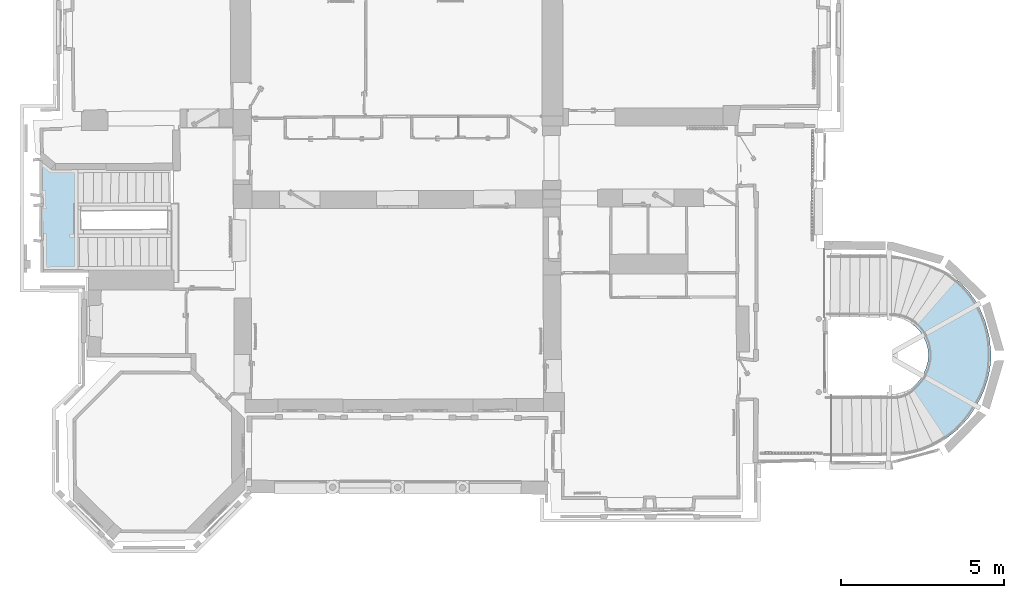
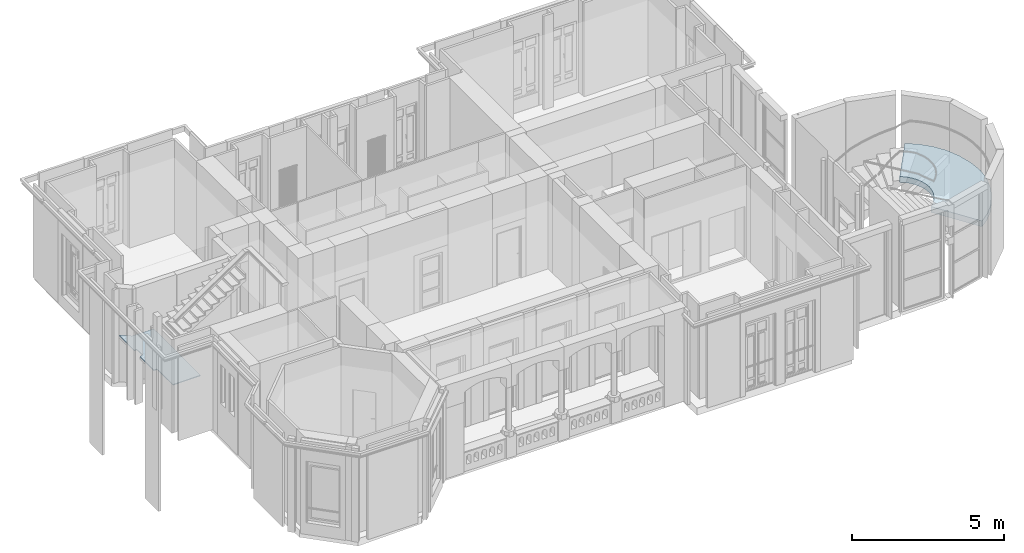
# One storey, part 32 of 66: 2 slabs, 2 elements without a shape of their own.
"""IFC2X3 building model written with IfcOpenShell, lengths in centimetres."""

from ifc_helpers import new_model, entity, si_unit, converted_unit, direction, frame, origin, origin_with_axes, place, context, subcontext, project, spatial, faceted_brep, material, material_list, element, aggregate, save


model = new_model("IFC2X3")

# Units and contexts
model_context = context("Model", 3, precision=0.0001, world=origin(), true_north=direction((0.225632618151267, 0.974212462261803, 0.0)))
body_context = subcontext(model_context, "Body", "Model", "MODEL_VIEW")
ifc_project = project(units=[si_unit("LENGTHUNIT", "METRE", prefix="CENTI"), si_unit("AREAUNIT", "SQUARE_METRE", prefix="CENTI"), si_unit("VOLUMEUNIT", "CUBIC_METRE", prefix="CENTI"), converted_unit("PLANEANGLEUNIT", "DEGREE", entity("IfcRatioMeasure", 0.0174532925), si_unit("PLANEANGLEUNIT", "RADIAN"), dimensions=[0, 0, 0, 0, 0, 0, 0])], contexts=[model_context])

# Site, building, storey
site_placement = place(None, origin_with_axes())
site = spatial("IfcSite", under=ifc_project, at=site_placement, Name="Default Site", CompositionType="ELEMENT")
building_placement = place(site_placement, origin_with_axes())
building = spatial("IfcBuilding", under=site, at=building_placement, Name="Default Building", CompositionType="ELEMENT")
storey_placement = place(building_placement, frame((0.0, 0.0, 477.795358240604), z_axis=(0.0, 0.0, 1.0), x_axis=(1.0, 0.0, 0.0)))
storey = spatial("IfcBuildingStorey", under=building, at=storey_placement, Name="Niveau 1", CompositionType="ELEMENT", Elevation=477.795358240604)

# Stair, slab
stair_1_placement = place(storey_placement, frame((1122.50922468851, -332.022076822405, 0.0), z_axis=(0.0, 0.0, 1.0), x_axis=(1.0, 0.0, 0.0)))
stair_1 = element("IfcStair", 1, at=stair_1_placement, inside=storey, Name="Escalier 724676", ShapeType="NOTDEFINED")
ifc_material_1 = material(Name="Blanc")
ifc_material_2 = material(Name="Carreau décoré (85)")
ifc_material_list = material_list([ifc_material_1, ifc_material_2])
slab_1_placement = place(stair_1_placement, frame((391.848437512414, 12.8588735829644, 186.307529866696), z_axis=(0.0, 0.0, 1.0), x_axis=(0.801648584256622, -0.597795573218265, 0.0)))
slab_1 = element("IfcSlab", 2, at=slab_1_placement, material=ifc_material_list, Name="4294967280", PredefinedType="LANDING", context=body_context, shape_type="Brep", body=[
    faceted_brep([(-42.394244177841, -191.249401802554, -20.0000286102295), (-42.394244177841, -191.249401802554, 0.0), (-47.7133013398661, 4.99968131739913e-08, 0.0), (-47.7133031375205, 1.77635683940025e-13, 0.0), (-47.7133031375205, 1.77635683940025e-13, -20.0000286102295), (-42.3942459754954, -191.249401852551, -20.0000286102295), (257.00890930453, -413.539061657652, -20.0000286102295), (257.00890930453, -413.539061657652, 0.0), (80.6413384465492, -350.768835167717, 0.0), (80.6413401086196, -350.768830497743, 0.0), (80.6413401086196, -350.768830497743, -20.0000286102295), (257.0089109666, -413.539056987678, -20.0000286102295), (15.3910823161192, -201.883055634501, -20.0000286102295), (138.966497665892, -50.437387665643, -20.0000286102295), (32.6621853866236, -211.481300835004, -20.0000286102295), (-3.20626929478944, -195.207863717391, -20.0000286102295), (47.0694433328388, -7.81192073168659, -20.0000286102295), (92.2246502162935, -23.224916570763, -20.0000286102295), (0.0, 0.0, -20.0000286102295), (-22.638981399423, -191.631904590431, -20.0000286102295), (84.3861218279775, -331.532678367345, -20.0000286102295), (274.406233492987, -322.894354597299, -20.0000286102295), (269.310994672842, -368.908278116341, -20.0000286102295), (85.3209944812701, -311.957712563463, -20.0000286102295), (272.166492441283, -276.653406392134, -20.0000286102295), (83.4263804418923, -292.45224408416, -20.0000286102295), (268.457184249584, -249.694908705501, -20.0000286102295), (78.741796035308, -273.423106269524, -20.0000286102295), (254.314676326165, -197.189558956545, -20.0000286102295), (262.492449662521, -223.144194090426, -20.0000286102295), (71.364959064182, -255.267279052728, -20.0000286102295), (231.567139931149, -147.799553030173, -20.0000286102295), (243.981741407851, -172.015184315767, -20.0000286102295), (61.4498001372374, -238.363319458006, -20.0000286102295), (180.946757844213, -84.5398157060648, -20.0000286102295), (217.158795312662, -124.714492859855, -20.0000286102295), (48.1513354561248, -223.749325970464, -20.0000286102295), (-22.638981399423, -191.631904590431, 0.0), (-42.3942441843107, -191.249402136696, -20.0000286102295), (-42.3942441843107, -191.249402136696, 0.0), (-3.20626929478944, -195.207863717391, 0.0), (-22.6389814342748, -191.631904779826, -20.0000286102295), (-22.6389814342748, -191.631904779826, 0.0), (15.3910823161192, -201.883055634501, 0.0), (-3.20626932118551, -195.207863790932, -20.0000286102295), (-3.20626932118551, -195.207863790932, 0.0), (32.6621853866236, -211.481300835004, 0.0), (15.3910823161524, -201.883055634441, -20.0000286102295), (15.3910823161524, -201.883055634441, 0.0), (48.1513354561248, -223.749325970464, 0.0), (32.6621855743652, -211.481300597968, -20.0000286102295), (32.6621855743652, -211.481300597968, 1.17977529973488e-23), (61.4498001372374, -238.363319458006, 0.0), (48.151335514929, -223.749325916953, -20.0000286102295), (48.151335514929, -223.749325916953, 0.0), (0.0, 0.0, 0.0), (269.310994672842, -368.908278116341, 0.0), (84.3861218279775, -331.532678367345, 0.0), (274.406233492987, -322.894354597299, 0.0), (85.3209944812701, -311.957712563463, 0.0), (272.166492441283, -276.653406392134, 0.0), (83.4263804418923, -292.45224408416, 0.0), (268.457184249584, -249.694908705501, 0.0), (78.741796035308, -273.423106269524, 0.0), (262.492449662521, -223.144194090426, 0.0), (254.314676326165, -197.189558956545, 0.0), (71.364959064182, -255.267279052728, 0.0), (243.981741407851, -172.015184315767, 0.0), (231.567139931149, -147.799553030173, 0.0), (217.158795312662, -124.714492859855, 0.0), (180.946757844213, -84.5398157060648, 0.0), (138.966497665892, -50.437387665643, 0.0), (92.2246502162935, -23.224916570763, 0.0), (47.0694433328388, -7.81192073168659, 0.0), (61.4498001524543, -238.36331944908, -20.0000286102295), (61.4498001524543, -238.36331944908, 3.42765946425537e-25), (71.3649591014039, -255.267279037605, -20.0000286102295), (71.3649591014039, -255.267279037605, 0.0), (78.7417959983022, -273.423106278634, -20.0000286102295), (78.7417959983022, -273.423106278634, 0.0), (83.4263806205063, -292.452244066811, -20.0000286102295), (83.4263806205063, -292.452244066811, 0.0), (85.3209950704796, -311.957712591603, -20.0000286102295), (85.3209950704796, -311.957712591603, 4.58444995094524e-23), (84.3861212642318, -331.532678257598, -20.0000286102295), (84.3861212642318, -331.532678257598, -4.46357884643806e-23), (257.008910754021, -413.539062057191, -20.0000286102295), (257.008910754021, -413.539062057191, 0.0), (269.310995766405, -368.908278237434, -20.0000286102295), (269.310995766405, -368.908278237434, 0.0), (274.406233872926, -322.894354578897, -20.0000286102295), (274.406233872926, -322.894354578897, 5.32434987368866e-23), (272.166492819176, -276.653406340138, -20.0000286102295), (272.166492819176, -276.653406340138, -3.57554871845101e-23), (268.457184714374, -249.694908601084, -20.0000286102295), (268.457184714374, -249.694908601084, 4.46528981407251e-23), (262.49244976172, -223.14419405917, -20.0000286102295), (262.49244976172, -223.14419405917, 0.0), (254.314676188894, -197.189559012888, -20.0000286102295), (254.314676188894, -197.189559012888, -6.95441324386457e-24), (243.981741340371, -172.015184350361, -20.0000286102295), (243.981741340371, -172.015184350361, 0.0), (231.567139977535, -147.799553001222, -20.0000286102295), (231.567139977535, -147.799553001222, 1.28135191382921e-24), (217.158795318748, -124.714492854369, -20.0000286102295), (217.158795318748, -124.714492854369, -3.27857943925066e-25), (180.946757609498, -84.539815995, -20.0000286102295), (180.946757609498, -84.539815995, -2.97905215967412e-23), (138.966497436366, -50.4373880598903, -20.0000286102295), (138.966497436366, -50.4373880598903, 0.0), (92.2246500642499, -23.2249170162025, -20.0000286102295), (92.2246500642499, -23.2249170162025, -6.75861125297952e-23), (47.0694434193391, -7.81192021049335, -20.0000286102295), (47.0694434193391, -7.81192021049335, 7.58642600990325e-23), (-1.49249807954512e-15, 2.66855880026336e-07, -20.0000286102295), (-1.49249807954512e-15, 2.66855880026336e-07, 0.0)], [[[0, 1, 2]], [[3, 4, 5]], [[6, 7, 8]], [[9, 10, 11]], [[12, 13, 14]], [[15, 16, 17]], [[15, 17, 12]], [[18, 15, 19]], [[18, 16, 15]], [[4, 19, 0]], [[4, 18, 19]], [[20, 21, 22]], [[10, 22, 6]], [[10, 20, 22]], [[23, 24, 21]], [[23, 21, 20]], [[25, 26, 24]], [[25, 24, 23]], [[27, 28, 29]], [[27, 29, 26]], [[27, 26, 25]], [[30, 31, 32]], [[30, 32, 28]], [[30, 28, 27]], [[33, 34, 35]], [[33, 35, 31]], [[33, 31, 30]], [[36, 34, 33]], [[14, 13, 34]], [[14, 34, 36]], [[12, 17, 13]], [[37, 38, 19]], [[37, 39, 38]], [[40, 41, 15]], [[40, 42, 41]], [[43, 44, 12]], [[43, 45, 44]], [[46, 47, 14]], [[46, 48, 47]], [[49, 50, 36]], [[49, 51, 50]], [[52, 53, 33]], [[52, 54, 53]], [[55, 3, 37]], [[56, 9, 7]], [[57, 9, 56]], [[58, 59, 57]], [[58, 57, 56]], [[60, 61, 59]], [[60, 59, 58]], [[62, 63, 61]], [[62, 61, 60]], [[64, 63, 62]], [[65, 66, 63]], [[65, 63, 64]], [[67, 66, 65]], [[68, 52, 66]], [[68, 66, 67]], [[69, 52, 68]], [[70, 46, 49]], [[70, 49, 52]], [[70, 52, 69]], [[71, 43, 46]], [[71, 46, 70]], [[72, 40, 43]], [[72, 43, 71]], [[3, 1, 37]], [[73, 40, 72]], [[55, 37, 40]], [[55, 40, 73]], [[66, 74, 30]], [[66, 75, 74]], [[63, 76, 27]], [[63, 77, 76]], [[61, 78, 25]], [[61, 79, 78]], [[59, 80, 23]], [[59, 81, 80]], [[57, 82, 20]], [[57, 83, 82]], [[9, 84, 10]], [[9, 85, 84]], [[56, 86, 22]], [[56, 87, 86]], [[58, 88, 21]], [[58, 89, 88]], [[60, 90, 24]], [[60, 91, 90]], [[62, 92, 26]], [[62, 93, 92]], [[64, 94, 29]], [[64, 95, 94]], [[65, 96, 28]], [[65, 97, 96]], [[67, 98, 32]], [[67, 99, 98]], [[68, 100, 31]], [[68, 101, 100]], [[69, 102, 35]], [[69, 103, 102]], [[70, 104, 34]], [[70, 105, 104]], [[71, 106, 13]], [[71, 107, 106]], [[72, 108, 17]], [[72, 109, 108]], [[73, 110, 16]], [[73, 111, 110]], [[55, 112, 18]], [[55, 113, 112]], [[3, 114, 4]], [[3, 115, 114]]]),
    faceted_brep([(-42.394244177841, -191.249401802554, 0.0), (-42.394244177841, -191.249401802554, 2.99997329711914), (-47.7133013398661, 4.99968131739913e-08, 2.99997329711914), (-47.7133031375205, 1.77635683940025e-13, 2.99997329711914), (-47.7133031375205, 1.77635683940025e-13, 0.0), (-42.3942459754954, -191.249401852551, 0.0), (257.00890930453, -413.539061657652, 0.0), (257.00890930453, -413.539061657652, 2.99997329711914), (80.6413384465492, -350.768835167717, 2.99997329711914), (80.6413401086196, -350.768830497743, 2.99997329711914), (80.6413401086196, -350.768830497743, 0.0), (257.0089109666, -413.539056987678, 0.0), (15.3910823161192, -201.883055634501, 0.0), (138.966497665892, -50.437387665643, 0.0), (32.6621853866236, -211.481300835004, 0.0), (-3.20626929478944, -195.207863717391, 0.0), (47.0694433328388, -7.81192073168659, 0.0), (92.2246502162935, -23.224916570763, 0.0), (0.0, 0.0, 0.0), (-22.638981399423, -191.631904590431, 0.0), (84.3861218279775, -331.532678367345, 0.0), (274.406233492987, -322.894354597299, 0.0), (269.310994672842, -368.908278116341, 0.0), (85.3209944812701, -311.957712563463, 0.0), (272.166492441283, -276.653406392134, 0.0), (83.4263804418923, -292.45224408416, 0.0), (268.457184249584, -249.694908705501, 0.0), (78.741796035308, -273.423106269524, 0.0), (254.314676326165, -197.189558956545, 0.0), (262.492449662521, -223.144194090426, 0.0), (71.364959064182, -255.267279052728, 0.0), (231.567139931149, -147.799553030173, 0.0), (243.981741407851, -172.015184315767, 0.0), (61.4498001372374, -238.363319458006, 0.0), (180.946757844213, -84.5398157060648, 0.0), (217.158795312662, -124.714492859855, 0.0), (48.1513354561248, -223.749325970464, 0.0), (-22.638981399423, -191.631904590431, 2.99997329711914), (-42.3942441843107, -191.249402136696, 0.0), (-42.3942441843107, -191.249402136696, 2.99997329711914), (-3.20626929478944, -195.207863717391, 2.99997329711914), (-22.6389814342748, -191.631904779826, 0.0), (-22.6389814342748, -191.631904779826, 2.99997329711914), (15.3910823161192, -201.883055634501, 2.99997329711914), (-3.20626932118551, -195.207863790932, 0.0), (-3.20626932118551, -195.207863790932, 2.99997329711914), (-3.20626932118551, -195.207863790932, 2.88947334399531e-23), (32.6621853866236, -211.481300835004, 2.99997329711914), (15.3910823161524, -201.883055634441, 0.0), (15.3910823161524, -201.883055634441, 2.99997329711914), (15.3910823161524, -201.883055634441, -2.52500090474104e-26), (48.1513354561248, -223.749325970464, 2.99997329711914), (32.6621855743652, -211.481300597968, 0.0), (32.6621855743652, -211.481300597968, 2.99997329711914), (61.4498001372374, -238.363319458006, 2.99997329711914), (48.151335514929, -223.749325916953, 0.0), (48.151335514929, -223.749325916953, 2.99997329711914), (0.0, 0.0, 2.99997329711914), (269.310994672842, -368.908278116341, 2.99997329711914), (84.3861218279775, -331.532678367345, 2.99997329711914), (274.406233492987, -322.894354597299, 2.99997329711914), (85.3209944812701, -311.957712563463, 2.99997329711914), (272.166492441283, -276.653406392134, 2.99997329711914), (83.4263804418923, -292.45224408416, 2.99997329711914), (268.457184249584, -249.694908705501, 2.99997329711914), (78.741796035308, -273.423106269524, 2.99997329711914), (262.492449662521, -223.144194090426, 2.99997329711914), (254.314676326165, -197.189558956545, 2.99997329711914), (71.364959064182, -255.267279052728, 2.99997329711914), (243.981741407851, -172.015184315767, 2.99997329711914), (231.567139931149, -147.799553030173, 2.99997329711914), (217.158795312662, -124.714492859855, 2.99997329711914), (180.946757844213, -84.5398157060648, 2.99997329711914), (138.966497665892, -50.437387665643, 2.99997329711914), (92.2246502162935, -23.224916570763, 2.99997329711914), (47.0694433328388, -7.81192073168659, 2.99997329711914), (61.4498001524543, -238.36331944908, 0.0), (61.4498001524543, -238.36331944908, 2.99997329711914), (71.3649591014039, -255.267279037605, 0.0), (71.3649591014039, -255.267279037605, 2.99997329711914), (71.3649591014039, -255.267279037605, 7.36943994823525e-24), (78.7417959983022, -273.423106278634, 0.0), (78.7417959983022, -273.423106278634, 2.99997329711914), (83.4263806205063, -292.452244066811, 0.0), (83.4263806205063, -292.452244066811, 2.99997329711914), (85.3209950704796, -311.957712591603, 0.0), (85.3209950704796, -311.957712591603, 2.99997329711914), (85.3209950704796, -311.957712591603, 2.16397864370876e-22), (84.3861212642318, -331.532678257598, 0.0), (84.3861212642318, -331.532678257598, 2.99997329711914), (84.3861212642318, -331.532678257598, 2.10692399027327e-22), (257.008910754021, -413.539062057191, 0.0), (257.008910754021, -413.539062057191, 2.99997329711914), (269.310995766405, -368.908278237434, 0.0), (269.310995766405, -368.908278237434, 2.99997329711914), (269.310995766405, -368.908278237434, -9.4449271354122e-22), (274.406233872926, -322.894354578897, 0.0), (274.406233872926, -322.894354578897, 2.99997329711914), (272.166492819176, -276.653406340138, 0.0), (272.166492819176, -276.653406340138, 2.99997329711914), (268.457184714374, -249.694908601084, 0.0), (268.457184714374, -249.694908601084, 2.99997329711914), (268.457184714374, -249.694908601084, 2.41325190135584e-22), (262.49244976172, -223.14419405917, 0.0), (262.49244976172, -223.14419405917, 2.99997329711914), (262.49244976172, -223.14419405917, 5.26884482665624e-23), (254.314676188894, -197.189559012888, 0.0), (254.314676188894, -197.189559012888, 2.99997329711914), (243.981741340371, -172.015184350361, 0.0), (243.981741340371, -172.015184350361, 2.99997329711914), (231.567139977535, -147.799553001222, 0.0), (231.567139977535, -147.799553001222, 2.99997329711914), (217.158795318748, -124.714492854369, 0.0), (217.158795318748, -124.714492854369, 2.99997329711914), (180.946757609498, -84.539815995, 0.0), (180.946757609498, -84.539815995, 2.99997329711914), (180.946757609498, -84.539815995, 1.86564172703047e-22), (138.966497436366, -50.4373880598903, 0.0), (138.966497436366, -50.4373880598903, 2.99997329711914), (92.2246500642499, -23.2249170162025, 0.0), (92.2246500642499, -23.2249170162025, 2.99997329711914), (92.2246500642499, -23.2249170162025, -4.16368908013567e-22), (47.0694434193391, -7.81192021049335, 0.0), (47.0694434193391, -7.81192021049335, 2.99997329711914), (-1.49249807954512e-15, 2.66855880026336e-07, 0.0), (-1.49249807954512e-15, 2.66855880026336e-07, 2.99997329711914), (-1.49249809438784e-15, 2.66855882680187e-07, 2.36067326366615e-22)], [[[0, 1, 2]], [[3, 4, 5]], [[6, 7, 8]], [[9, 10, 11]], [[12, 13, 14]], [[15, 16, 17]], [[15, 17, 12]], [[18, 15, 19]], [[18, 16, 15]], [[4, 19, 0]], [[4, 18, 19]], [[20, 21, 22]], [[10, 22, 6]], [[10, 20, 22]], [[23, 24, 21]], [[23, 21, 20]], [[25, 26, 24]], [[25, 24, 23]], [[27, 28, 29]], [[27, 29, 26]], [[27, 26, 25]], [[30, 31, 32]], [[30, 32, 28]], [[30, 28, 27]], [[33, 34, 35]], [[33, 35, 31]], [[33, 31, 30]], [[36, 34, 33]], [[14, 13, 34]], [[14, 34, 36]], [[12, 17, 13]], [[37, 38, 19]], [[37, 39, 38]], [[40, 41, 15]], [[40, 42, 41]], [[43, 44, 12]], [[43, 45, 46]], [[47, 48, 14]], [[47, 49, 50]], [[51, 52, 36]], [[51, 53, 52]], [[54, 55, 33]], [[54, 56, 55]], [[57, 3, 37]], [[58, 9, 7]], [[59, 9, 58]], [[60, 61, 59]], [[60, 59, 58]], [[62, 63, 61]], [[62, 61, 60]], [[64, 65, 63]], [[64, 63, 62]], [[66, 65, 64]], [[67, 68, 65]], [[67, 65, 66]], [[69, 68, 67]], [[70, 54, 68]], [[70, 68, 69]], [[71, 54, 70]], [[72, 47, 51]], [[72, 51, 54]], [[72, 54, 71]], [[73, 43, 47]], [[73, 47, 72]], [[74, 40, 43]], [[74, 43, 73]], [[3, 1, 37]], [[75, 40, 74]], [[57, 37, 40]], [[57, 40, 75]], [[68, 76, 30]], [[68, 77, 76]], [[65, 78, 27]], [[65, 79, 80]], [[63, 81, 25]], [[63, 82, 81]], [[61, 83, 23]], [[61, 84, 83]], [[59, 85, 20]], [[59, 86, 87]], [[9, 88, 10]], [[9, 89, 90]], [[58, 91, 22]], [[58, 92, 91]], [[60, 93, 21]], [[60, 94, 95]], [[62, 96, 24]], [[62, 97, 96]], [[64, 98, 26]], [[64, 99, 98]], [[66, 100, 29]], [[66, 101, 102]], [[67, 103, 28]], [[67, 104, 105]], [[69, 106, 32]], [[69, 107, 106]], [[70, 108, 31]], [[70, 109, 108]], [[71, 110, 35]], [[71, 111, 110]], [[72, 112, 34]], [[72, 113, 112]], [[73, 114, 13]], [[73, 115, 116]], [[74, 117, 17]], [[74, 118, 117]], [[75, 119, 16]], [[75, 120, 121]], [[57, 122, 18]], [[57, 123, 122]], [[3, 124, 4]], [[3, 125, 126]]]),
])
aggregate(stair_1, [slab_1])

stair_2_placement = place(storey_placement, frame((-908.00257609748, -228.551642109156, 0.0), z_axis=(0.0, 0.0, 1.0), x_axis=(1.0, 0.0, 0.0)))
stair_2 = element("IfcStair", 3, at=stair_2_placement, inside=storey, Name="Escalier 133769", ShapeType="NOTDEFINED")
ifc_material_3 = material(Name="Épicéa")
slab_2_placement = place(stair_2_placement, frame((-392.441359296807, 46.8314925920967, 188.556580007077), z_axis=(0.0, 0.0, 1.0), x_axis=(0.128113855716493, -0.991759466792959, 0.0)))
slab_2 = element("IfcSlab", 4, at=slab_2_placement, material=ifc_material_3, Name="4294967272", PredefinedType="LANDING", context=body_context, shape_type="Brep", body=[
    faceted_brep([(0.0, 0.0, -8.88178419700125e-14), (-93.5646121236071, 0.0, -8.88178419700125e-14), (-1.98602404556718, -12.5133792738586, -8.88178419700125e-14), (-93.1398607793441, 11.2385275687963, -8.88178419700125e-14), (-130.070298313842, 15.7559518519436, -8.88178419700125e-14), (-232.219358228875, 20.0001682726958, -8.88178419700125e-14), (-131.236060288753, 5.33098002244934, -8.88178419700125e-14), (-200.678797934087, 51.1593529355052, -8.88178419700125e-14), (102.562988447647, -12.2637604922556, -8.88178419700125e-14), (114.758064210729, 92.2493393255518, -8.88178419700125e-14), (-190.541663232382, 131.6874556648, -8.88178419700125e-14), (-232.219358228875, 20.0001682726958, -3.00002098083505), (-130.070298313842, 15.7559518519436, -3.00002098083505), (-131.236060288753, 5.33098002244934, -3.00002098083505), (-200.678797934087, 51.1593529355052, -3.00002098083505), (-93.1398607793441, 11.2385275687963, -3.00002098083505), (0.0, 0.0, -3.00002098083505), (102.562988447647, -12.2637604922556, -3.00002098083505), (114.758064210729, 92.2493393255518, -3.00002098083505), (-190.541663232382, 131.6874556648, -3.00002098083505), (-93.5646121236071, 0.0, -3.00002098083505), (-1.98602404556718, -12.5133792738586, -3.00002098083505), (-93.1398607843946, 11.2385275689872, -8.88178419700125e-14), (-93.5646121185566, -1.90879110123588e-10, -3.00002098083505), (-93.5646121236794, -5.29527018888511e-10, -8.88178419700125e-14), (-1.98602404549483, -12.5133792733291, -3.00002098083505), (-1.98602402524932, -12.5133792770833, -8.88178419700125e-14), (-2.0317856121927e-08, 3.22468851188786e-09, -3.00002098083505), (2.12221781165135e-09, 1.77483081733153e-08, -8.88178419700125e-14), (102.562988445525, -12.2637605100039, -3.00002098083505), (102.562988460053, -12.2637604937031, -8.88178419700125e-14), (114.758064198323, 92.2493393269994, -3.00002098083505), (-190.541663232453, 131.687455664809, -8.88178419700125e-14), (-200.678797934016, 51.1593529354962, -3.00002098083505), (-200.678797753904, 51.1593527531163, -8.88178419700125e-14), (-232.219358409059, 20.0001684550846, -3.00002098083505), (-232.219358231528, 20.000168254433, -8.88178419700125e-14), (-131.2360602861, 5.33098004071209, -3.00002098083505), (-131.236060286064, 5.33098002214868, -8.88178419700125e-14), (-130.070298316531, 15.7559518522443, -3.00002098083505), (-130.07029831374, 15.7559518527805, -8.88178419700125e-14), (-93.1398607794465, 11.2385275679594, -3.00002098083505)], [[[0, 1, 2]], [[1, 0, 3]], [[4, 5, 6]], [[5, 4, 7]], [[7, 4, 3]], [[7, 3, 0]], [[7, 0, 8]], [[7, 8, 9]], [[7, 9, 10]], [[11, 12, 13]], [[12, 11, 14]], [[12, 14, 15]], [[15, 14, 16]], [[16, 14, 17]], [[17, 14, 18]], [[18, 14, 19]], [[20, 16, 21]], [[16, 20, 15]], [[20, 1, 22]], [[3, 15, 23]], [[21, 2, 24]], [[1, 20, 25]], [[16, 0, 26]], [[2, 21, 27]], [[17, 8, 28]], [[0, 16, 29]], [[18, 9, 30]], [[8, 17, 31]], [[19, 10, 9]], [[9, 18, 19]], [[14, 7, 32]], [[10, 19, 33]], [[11, 5, 34]], [[7, 14, 35]], [[13, 6, 36]], [[5, 11, 37]], [[12, 4, 38]], [[6, 13, 39]], [[15, 3, 40]], [[4, 12, 41]]]),
])
aggregate(stair_2, [slab_2])

save(model, "model.ifc")
